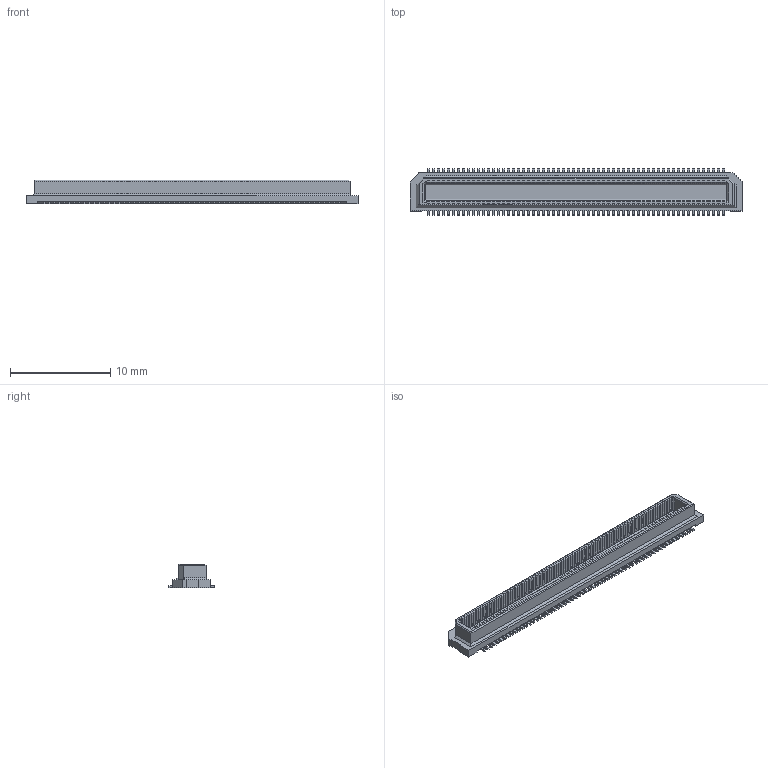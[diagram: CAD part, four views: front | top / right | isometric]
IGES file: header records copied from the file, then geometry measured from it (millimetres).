
Global section: preprocessor: SolidWorks 2007; organization: PanasonicCorporation,1; date: 071101.124215; units: millimetre
Bounding box: 33.2 x 4.6 x 2.4 mm (x, y, z)
Surface area: 611 mm2 (no closed solid volume)
Topology: 0 solids, 0 shells, 3316 faces, 18392 edges, 18392 vertices
Faces by surface type: bspline 3196, revolution 120
